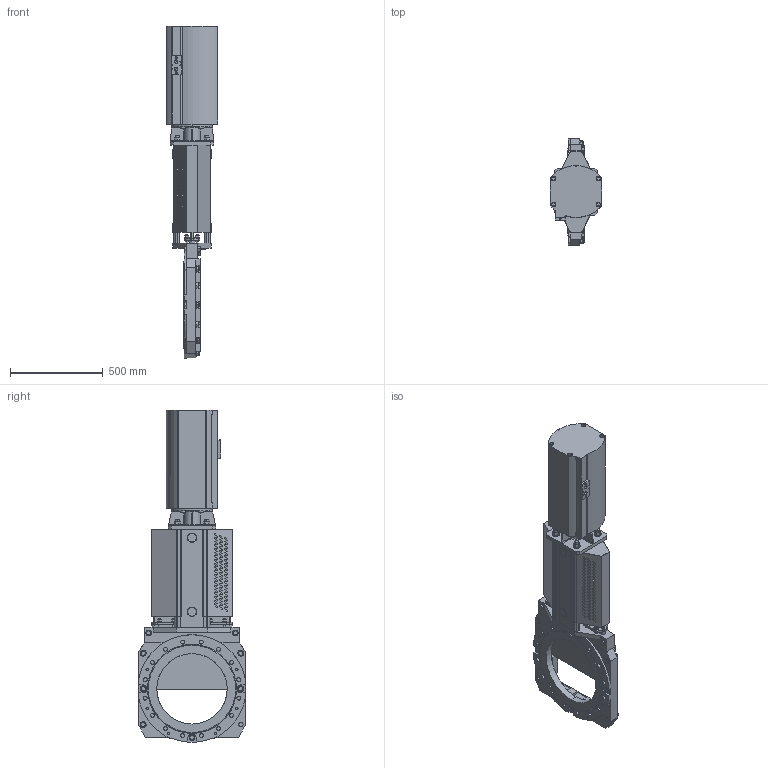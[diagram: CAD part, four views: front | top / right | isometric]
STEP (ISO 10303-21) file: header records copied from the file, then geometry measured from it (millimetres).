
FILE_DESCRIPTION(('STEP AP203'),'1');
FILE_NAME('F:/Alexander/tillfällig/RKO-DN400-EC250.stp','2013-04-09T14:02:38',(' '),(' '),'Spatial InterOp 3D',' ',' ');
FILE_SCHEMA(('CONFIG_CONTROL_DESIGN'));
Length unit declared in the file: millimetre
Products named in the file (3): 1; 2; 3
Bounding box: 280 x 574 x 1793 mm (x, y, z)
Volume: 36349938.3 mm3; surface area: 4759472.2 mm2
Topology: 3 solids, 56 shells, 3188 faces, 8028 edges, 5132 vertices
Faces by surface type: plane 1306, cylinder 1218, cone 596, torus 68
Entity records: 97690 total; most frequent: CARTESIAN_POINT 19998, DIRECTION 16818, ORIENTED_EDGE 15952, EDGE_CURVE 7976, AXIS2_PLACEMENT_3D 6432, VERTEX_POINT 5132, LINE 3954, VECTOR 3954
